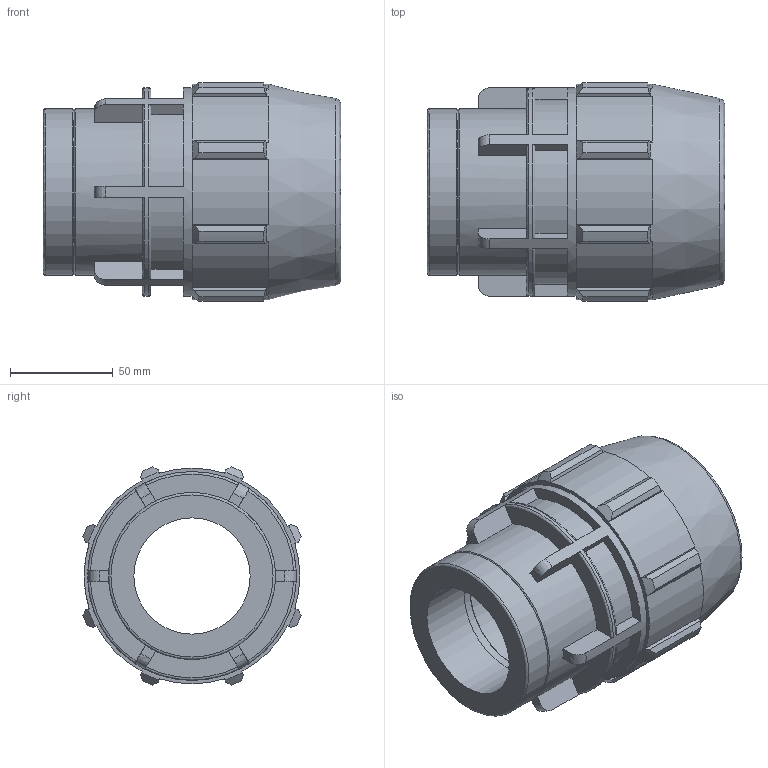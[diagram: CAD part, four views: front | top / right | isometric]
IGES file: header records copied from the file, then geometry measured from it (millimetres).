
Global section: file name: 0703M0T20020.ipt; native system: Autodesk Inventor 2019; preprocessor: unknown; author: KIM; date: 20210826.124529; units: inch
Bounding box: 145.03 x 106.35 x 106.35 mm (x, y, z)
Volume: 615525.1 mm3; surface area: 90759.1 mm2
Topology: 1 solids, 1 shells, 155 faces, 433 edges, 290 vertices
Faces by surface type: plane 86, cylinder 26, revolution 24, cone 19
Full cylindrical faces by diameter (mm): 57.095 x1, 81.382 x2, 101.727 x1
